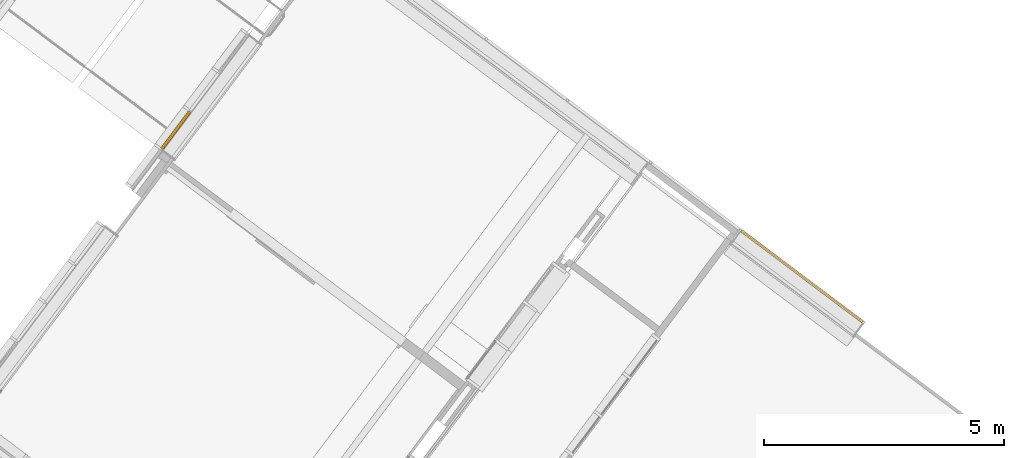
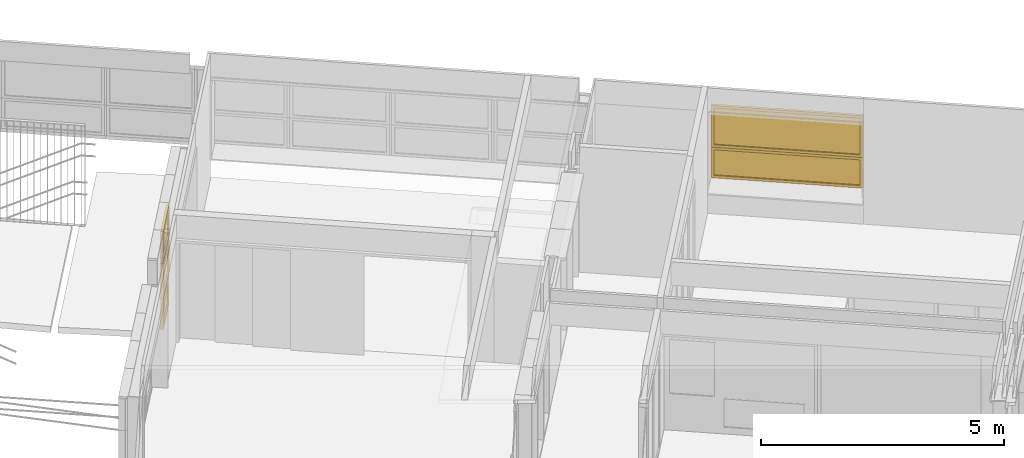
# One storey, part 231 of 243: 5 windows, 2 elements without a shape of their own.
"""IFC2X3 building model written with IfcOpenShell, lengths in metres."""

from ifc_helpers import new_model, entity, si_unit, converted_unit, derived_unit, direction, frame, origin, place, context, subcontext, project, spatial, faceted_brep, source, transform, mapped, material, material_list, type_object, type_shapes, element, aggregate, save


model = new_model("IFC2X3")

# Units and contexts
model_context = context("Model", 3, precision=1e-05, world=origin(), true_north=direction((6.123031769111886e-17, 1.0)))
body_context = subcontext(model_context, "Body", "Model", "MODEL_VIEW")
ifc_project = project(units=[si_unit("LENGTHUNIT", "METRE"), si_unit("AREAUNIT", "SQUARE_METRE"), si_unit("VOLUMEUNIT", "CUBIC_METRE"), converted_unit("PLANEANGLEUNIT", "DEGREE", entity("IfcRatioMeasure", 0.017453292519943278), si_unit("PLANEANGLEUNIT", "RADIAN"), dimensions=[0, 0, 0, 0, 0, 0, 0]), si_unit("MASSUNIT", "GRAM", prefix="KILO"), derived_unit("MASSDENSITYUNIT", [(si_unit("MASSUNIT", "GRAM", prefix="KILO"), 1), (si_unit("LENGTHUNIT", "METRE"), -3)]), derived_unit("IONCONCENTRATIONUNIT", [(si_unit("MASSUNIT", "GRAM", prefix="KILO"), 1), (si_unit("LENGTHUNIT", "METRE"), -3)]), derived_unit("MOMENTOFINERTIAUNIT", [(si_unit("LENGTHUNIT", "METRE"), 4)]), si_unit("TIMEUNIT", "SECOND"), si_unit("FREQUENCYUNIT", "HERTZ"), si_unit("THERMODYNAMICTEMPERATUREUNIT", "DEGREE_CELSIUS"), derived_unit("THERMALTRANSMITTANCEUNIT", [(si_unit("MASSUNIT", "GRAM", prefix="KILO"), 1), (si_unit("THERMODYNAMICTEMPERATUREUNIT", "KELVIN"), -1), (si_unit("TIMEUNIT", "SECOND"), -3)]), derived_unit("THERMALCONDUCTANCEUNIT", [(si_unit("MASSUNIT", "GRAM", prefix="KILO"), 1), (si_unit("THERMODYNAMICTEMPERATUREUNIT", "KELVIN"), -1), (si_unit("TIMEUNIT", "SECOND"), -3), (si_unit("LENGTHUNIT", "METRE"), 1)]), derived_unit("VOLUMETRICFLOWRATEUNIT", [(si_unit("LENGTHUNIT", "METRE"), 3), (si_unit("TIMEUNIT", "SECOND"), -1)]), derived_unit("MASSFLOWRATEUNIT", [(si_unit("MASSUNIT", "GRAM", prefix="KILO"), 1), (si_unit("TIMEUNIT", "SECOND"), -1)]), derived_unit("ROTATIONALFREQUENCYUNIT", [(si_unit("TIMEUNIT", "SECOND"), -1)]), si_unit("ELECTRICCURRENTUNIT", "AMPERE"), si_unit("ELECTRICVOLTAGEUNIT", "VOLT"), si_unit("POWERUNIT", "WATT"), si_unit("FORCEUNIT", "NEWTON", prefix="KILO"), si_unit("ILLUMINANCEUNIT", "LUX"), si_unit("LUMINOUSFLUXUNIT", "LUMEN"), si_unit("LUMINOUSINTENSITYUNIT", "CANDELA"), derived_unit("USERDEFINED", [(si_unit("MASSUNIT", "GRAM", prefix="KILO"), -1), (si_unit("LENGTHUNIT", "METRE"), -2), (si_unit("TIMEUNIT", "SECOND"), 3), (si_unit("LUMINOUSFLUXUNIT", "LUMEN"), 1)]), derived_unit("USERDEFINED", [(si_unit("MASSUNIT", "GRAM", prefix="KILO"), 1), (si_unit("TIMEUNIT", "SECOND"), -3), (si_unit("LENGTHUNIT", "METRE"), 3), (si_unit("ELECTRICCURRENTUNIT", "AMPERE"), -2)]), derived_unit("SOUNDPOWERUNIT", [(si_unit("MASSUNIT", "GRAM", prefix="KILO"), 1), (si_unit("TIMEUNIT", "SECOND"), -3), (si_unit("LENGTHUNIT", "METRE"), 2)]), derived_unit("SOUNDPRESSUREUNIT", [(si_unit("MASSUNIT", "GRAM", prefix="KILO"), 1), (si_unit("LENGTHUNIT", "METRE"), -1), (si_unit("TIMEUNIT", "SECOND"), -2)]), derived_unit("LINEARVELOCITYUNIT", [(si_unit("LENGTHUNIT", "METRE"), 1), (si_unit("TIMEUNIT", "SECOND"), -1)]), si_unit("PRESSUREUNIT", "PASCAL"), derived_unit("USERDEFINED", [(si_unit("MASSUNIT", "GRAM", prefix="KILO"), 1), (si_unit("LENGTHUNIT", "METRE"), -2), (si_unit("TIMEUNIT", "SECOND"), -2)]), derived_unit("LINEARFORCEUNIT", [(si_unit("MASSUNIT", "GRAM", prefix="KILO"), 1), (si_unit("TIMEUNIT", "SECOND"), -2)]), derived_unit("PLANARFORCEUNIT", [(si_unit("MASSUNIT", "GRAM", prefix="KILO"), 1), (si_unit("LENGTHUNIT", "METRE"), -1), (si_unit("TIMEUNIT", "SECOND"), -2)]), derived_unit("SPECIFICHEATCAPACITYUNIT", [(si_unit("THERMODYNAMICTEMPERATUREUNIT", "KELVIN"), -1), (si_unit("LENGTHUNIT", "METRE"), 2), (si_unit("TIMEUNIT", "SECOND"), -2)]), derived_unit("HEATINGVALUEUNIT", [(si_unit("LENGTHUNIT", "METRE"), 2), (si_unit("TIMEUNIT", "SECOND"), -2)]), derived_unit("VAPORPERMEABILITYUNIT", [(si_unit("LENGTHUNIT", "METRE"), -1), (si_unit("TIMEUNIT", "SECOND"), 1)]), derived_unit("DYNAMICVISCOSITYUNIT", [(si_unit("MASSUNIT", "GRAM", prefix="KILO"), 1), (si_unit("TIMEUNIT", "SECOND"), -1), (si_unit("LENGTHUNIT", "METRE"), -1)]), derived_unit("THERMALEXPANSIONCOEFFICIENTUNIT", [(si_unit("THERMODYNAMICTEMPERATUREUNIT", "KELVIN"), -1)]), derived_unit("MODULUSOFELASTICITYUNIT", [(si_unit("MASSUNIT", "GRAM", prefix="KILO"), 1), (si_unit("LENGTHUNIT", "METRE"), -1), (si_unit("TIMEUNIT", "SECOND"), -2)]), derived_unit("ISOTHERMALMOISTURECAPACITYUNIT", [(si_unit("LENGTHUNIT", "METRE"), 3), (si_unit("MASSUNIT", "GRAM", prefix="KILO"), -1)]), derived_unit("MOISTUREDIFFUSIVITYUNIT", [(si_unit("TIMEUNIT", "SECOND"), -1), (si_unit("LENGTHUNIT", "METRE"), 2)])], contexts=[model_context])

# Site, building, storey
site_placement = place(None, frame((0.0, 0.0, 235.0), z_axis=(0.0, 0.0, 1.0), x_axis=(-0.7996477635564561, 0.6004693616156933, 0.0)))
site = spatial("IfcSite", under=ifc_project, at=site_placement, Name="Default", CompositionType="ELEMENT")
building_placement = place(site_placement, origin())
building = spatial("IfcBuilding", under=site, at=building_placement, CompositionType="ELEMENT")
storey_placement = place(building_placement, origin())
storey = spatial("IfcBuildingStorey", under=building, at=storey_placement, Name="P0- Escola", CompositionType="ELEMENT", Elevation=0.0)

# Curtain wall, windows
curtain_wall_type_1 = type_object("IfcCurtainWallType", Name="Muro cortina:MC- EXT- MC2", PredefinedType="NOTDEFINED")
curtain_wall_1_placement = place(storey_placement, origin())
curtain_wall_1 = element("IfcCurtainWall", 1, at=curtain_wall_1_placement, inside=storey, type_object=curtain_wall_type_1, Name="Muro cortina:MC- EXT- MC2", ObjectType="Muro cortina:MC- EXT- MC2")
ifc_material_1 = material(Name="_Vidre")
ifc_material_2 = material(Name="_Alumini- T1- Perfil")
ifc_material_list = material_list([ifc_material_1, ifc_material_2])
window_style_1 = type_object("IfcWindowStyle", Name="MC- Alu- Conjunt vidre fix- 62x60 cm:MC- Alu- Conjunt vidre fix- 62x60 cm", ConstructionType="NOTDEFINED", OperationType="NOTDEFINED", ParameterTakesPrecedence=False, Sizeable=False, material=ifc_material_list)
shared_shape_1 = source(origin(), body_context, "Body", "Brep", [
    faceted_brep([(-0.43479523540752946, -0.007600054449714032, 0.048806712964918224), (0.4347952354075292, -0.007600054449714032, 0.048806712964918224), (0.4347952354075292, -0.03160022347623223, 0.048806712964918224), (-0.43479523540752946, -0.03160022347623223, 0.048806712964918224), (-0.43479523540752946, -0.007600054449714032, 0.7387000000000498), (0.4347952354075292, -0.007600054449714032, 0.7387000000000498), (0.4347952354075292, -0.03160022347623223, 0.7387000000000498), (-0.43479523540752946, -0.03160022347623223, 0.7387000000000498)], [[[0, 1, 2, 3]], [[4, 5, 1, 0]], [[5, 6, 2, 1]], [[6, 7, 3, 2]], [[7, 4, 0, 3]], [[4, 7, 6, 5]]]),
    faceted_brep([(-0.4836019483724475, -0.05999999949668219, 0.7877000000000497), (-0.4836019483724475, 0.0, 0.7877000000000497), (-0.4836019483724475, 0.0, 0.0), (-0.4836019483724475, -0.05999999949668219, 0.0), (-0.4207951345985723, 0.0, 0.7248931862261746), (-0.4207951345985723, 0.0, 0.06280681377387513), (0.4207951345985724, 0.0, 0.06280681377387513), (0.4207951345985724, 0.0, 0.7248931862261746), (0.4836019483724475, 0.0, 0.7877000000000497), (0.4836019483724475, 0.0, 0.0), (0.4836019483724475, -0.05999999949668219, 0.0), (0.4836019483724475, -0.05999999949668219, 0.7877000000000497), (0.42079798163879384, -0.05999999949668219, 0.724896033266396), (0.42079798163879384, -0.05999999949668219, 0.0628039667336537), (-0.42079798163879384, -0.05999999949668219, 0.0628039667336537), (-0.42079798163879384, -0.05999999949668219, 0.724896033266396), (-0.42079798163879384, -0.03160022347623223, 0.724896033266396), (-0.4207979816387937, -0.03160022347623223, 0.0628039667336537), (0.4207979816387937, -0.03160022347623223, 0.06280396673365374), (0.42079798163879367, -0.03160022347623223, 0.7248960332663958), (0.43479523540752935, -0.03160022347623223, 0.7388932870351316), (0.43479523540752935, -0.03160022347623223, 0.048806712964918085), (-0.43479523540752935, -0.03160022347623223, 0.04880671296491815), (-0.43479523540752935, -0.03160022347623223, 0.7388932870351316), (-0.43479523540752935, -0.007600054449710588, 0.7388932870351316), (-0.43479523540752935, -0.007600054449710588, 0.04880671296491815), (0.43479523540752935, -0.007600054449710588, 0.048806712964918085), (0.43479523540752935, -0.007600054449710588, 0.7388932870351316), (0.4207951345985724, -0.007600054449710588, 0.7248931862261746), (0.4207951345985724, -0.007600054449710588, 0.06280681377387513), (-0.4207951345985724, -0.007600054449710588, 0.06280681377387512), (-0.4207951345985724, -0.007600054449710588, 0.7248931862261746)], [[[0, 1, 2, 3]], [[4, 5, 6, 7], [8, 9, 2, 1]], [[3, 2, 9, 10]], [[0, 3, 10, 11], [12, 13, 14, 15]], [[16, 15, 14, 17]], [[17, 14, 13, 18]], [[16, 17, 18, 19], [20, 21, 22, 23]], [[24, 23, 22, 25]], [[25, 22, 21, 26]], [[24, 25, 26, 27], [28, 29, 30, 31]], [[4, 31, 30, 5]], [[5, 30, 29, 6]], [[10, 9, 8, 11]], [[18, 13, 12, 19]], [[26, 21, 20, 27]], [[6, 29, 28, 7]], [[11, 8, 1, 0]], [[19, 12, 15, 16]], [[27, 20, 23, 24]], [[7, 28, 31, 4]]], outer=[[True], [False, True], [True], [True, False], [True], [True], [False, True], [True], [True], [True, False], [True], [True], [True], [True], [True], [True], [True], [True], [True], [True]]),
])
type_shapes(window_style_1, [shared_shape_1])
window_1_placement = place(curtain_wall_1_placement, frame((23.945147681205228, -36.91658981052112, 0.03229999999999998), z_axis=(0.0, 0.0, 1.0), x_axis=(0.0, -1.0, 0.0)))
window_1 = element("IfcWindow", 2, at=window_1_placement, type_object=window_style_1, material=ifc_material_list, Name="MC- Alu- Conjunt vidre fix- 62x60 cm:MC- Alu- Conjunt vidre fix- 62x60 cm", ObjectType="MC- Alu- Conjunt vidre fix- 62x60 cm:MC- Alu- Conjunt vidre fix- 62x60 cm", OverallHeight=0.7877000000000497, OverallWidth=0.967203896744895, context=body_context, shape_type="MappedRepresentation", body=[
    mapped(shared_shape_1, transform((0.0, 0.0, 0.0), scale=1.0)),
])
window_style_2 = type_object("IfcWindowStyle", Name="MC- Alu- Conjunt finestra basculant- 68x68 cm:MC- Alu- Conjunt finestra basculant- 68x68 cm", ConstructionType="NOTDEFINED", OperationType="NOTDEFINED", ParameterTakesPrecedence=False, Sizeable=False, material=ifc_material_list)
shared_shape_2 = source(origin(), body_context, "Body", "Brep", [
    faceted_brep([(-0.4315136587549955, -0.03559830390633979, 0.051999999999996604), (-0.4315136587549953, -0.011598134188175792, 0.051999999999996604), (0.4315136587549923, -0.01159813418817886, 0.051999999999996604), (0.4315136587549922, -0.03559830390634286, 0.051999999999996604), (-0.4315136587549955, -0.03559830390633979, 0.8228027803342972), (-0.4315136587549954, -0.011598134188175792, 0.8228027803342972), (0.4315136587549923, -0.01159813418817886, 0.8228027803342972), (0.4315136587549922, -0.03559830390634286, 0.8228027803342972)], [[[0, 1, 2, 3]], [[4, 5, 1, 0]], [[5, 6, 2, 1]], [[6, 7, 3, 2]], [[7, 4, 0, 3]], [[4, 7, 6, 5]]]),
    faceted_brep([(0.41581283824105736, -0.009998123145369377, 0.8071019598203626), (0.41581283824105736, -0.007998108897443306, 0.8071019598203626), (0.41581283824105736, -0.007998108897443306, 0.06789804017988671), (0.41581283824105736, -0.009998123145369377, 0.06789804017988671), (0.4447108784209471, -0.007998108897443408, 0.8360000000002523), (0.4447108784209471, -0.007998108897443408, 0.03899999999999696), (-0.4447108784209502, -0.00799810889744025, 0.03899999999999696), (-0.4447108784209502, -0.00799810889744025, 0.8360000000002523), (-0.41581283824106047, -0.007998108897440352, 0.8071019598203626), (-0.41581283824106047, -0.007998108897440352, 0.06789804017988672), (-0.41581283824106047, -0.009998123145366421, 0.06789804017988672), (-0.41581283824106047, -0.009998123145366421, 0.8071019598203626), (-0.4315136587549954, -0.009998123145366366, 0.8228027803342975), (-0.4315136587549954, -0.009998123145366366, 0.05219721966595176), (0.4315136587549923, -0.009998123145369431, 0.052197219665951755), (0.4315136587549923, -0.009998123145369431, 0.8228027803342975), (0.43151365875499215, -0.04079986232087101, 0.8228027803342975), (0.43151365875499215, -0.04079986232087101, 0.052197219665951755), (-0.43151365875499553, -0.04079986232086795, 0.05219721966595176), (-0.43151365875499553, -0.04079986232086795, 0.8228027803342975), (-0.4158128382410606, -0.040799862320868, 0.8071019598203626), (-0.4158128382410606, -0.04079986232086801, 0.06789804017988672), (0.4158128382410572, -0.04079986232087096, 0.06789804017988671), (0.4158128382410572, -0.040799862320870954, 0.8071019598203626), (0.4158128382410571, -0.06800005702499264, 0.8071019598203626), (0.41581283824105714, -0.06800005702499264, 0.06789804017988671), (-0.41581283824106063, -0.0680000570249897, 0.06789804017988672), (-0.41581283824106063, -0.0680000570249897, 0.8071019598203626), (-0.46221484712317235, -0.06800005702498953, 0.8535039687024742), (-0.46221484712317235, -0.06800005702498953, 0.021496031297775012), (0.46221484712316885, -0.06800005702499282, 0.021496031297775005), (0.46221484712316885, -0.06800005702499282, 0.8535039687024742), (0.46221484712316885, -0.0645000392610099, 0.8535039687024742), (0.46221484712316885, -0.0645000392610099, 0.021496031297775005), (-0.46221484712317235, -0.06450003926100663, 0.021496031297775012), (-0.46221484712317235, -0.06450003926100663, 0.8535039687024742), (-0.4447108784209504, -0.06450003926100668, 0.8360000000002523), (-0.4447108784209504, -0.06450003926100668, 0.03899999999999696), (0.44471087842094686, -0.06450003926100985, 0.038999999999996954), (0.44471087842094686, -0.06450003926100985, 0.8360000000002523)], [[[0, 1, 2, 3]], [[4, 5, 6, 7], [8, 9, 2, 1]], [[3, 2, 9, 10]], [[0, 3, 10, 11], [12, 13, 14, 15]], [[16, 15, 14, 17]], [[17, 14, 13, 18]], [[16, 17, 18, 19], [20, 21, 22, 23]], [[24, 23, 22, 25]], [[25, 22, 21, 26]], [[24, 25, 26, 27], [28, 29, 30, 31]], [[32, 31, 30, 33]], [[33, 30, 29, 34]], [[32, 33, 34, 35], [36, 37, 38, 39]], [[4, 39, 38, 5]], [[5, 38, 37, 6]], [[10, 9, 8, 11]], [[18, 13, 12, 19]], [[26, 21, 20, 27]], [[34, 29, 28, 35]], [[6, 37, 36, 7]], [[11, 8, 1, 0]], [[19, 12, 15, 16]], [[27, 20, 23, 24]], [[35, 28, 31, 32]], [[7, 36, 39, 4]]], outer=[[True], [True, False], [True], [False, True], [True], [True], [True, False], [True], [True], [False, True], [True], [True], [True, False], [True], [True], [True], [True], [True], [True], [True], [True], [True], [True], [True], [True]]),
    faceted_brep([(-0.4207951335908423, 0.0, 0.8121931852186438), (-0.4207951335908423, -0.0040000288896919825, 0.8121931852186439), (-0.4207951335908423, -0.0040000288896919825, 0.06280681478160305), (-0.4207951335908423, 0.0, 0.06280681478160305), (-0.45620175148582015, -0.0040000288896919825, 0.8475998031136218), (-0.45620175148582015, -0.0040000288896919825, 0.027400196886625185), (0.45620175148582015, -0.0040000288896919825, 0.027400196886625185), (0.45620175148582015, -0.0040000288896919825, 0.8475998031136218), (0.4207951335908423, -0.0040000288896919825, 0.8121931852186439), (0.4207951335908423, -0.0040000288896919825, 0.06280681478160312), (0.4207951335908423, 0.0, 0.06280681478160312), (0.4207951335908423, 0.0, 0.8121931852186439), (0.4836019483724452, 0.0, 0.8750000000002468), (0.4836019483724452, 0.0, 0.0), (-0.4836019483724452, 0.0, 0.0), (-0.4836019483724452, 0.0, 0.8750000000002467), (-0.4836019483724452, -0.05999999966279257, 0.8750000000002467), (-0.4836019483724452, -0.05999999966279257, 0.0), (0.4836019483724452, -0.05999999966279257, 0.0), (0.4836019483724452, -0.05999999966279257, 0.8750000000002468), (0.45620175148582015, -0.05999999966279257, 0.8475998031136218), (0.45620175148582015, -0.05999999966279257, 0.027400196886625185), (-0.45620175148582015, -0.05999999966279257, 0.02740019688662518), (-0.45620175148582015, -0.05999999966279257, 0.8475998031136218)], [[[0, 1, 2, 3]], [[4, 5, 6, 7], [8, 9, 2, 1]], [[3, 2, 9, 10]], [[0, 3, 10, 11], [12, 13, 14, 15]], [[16, 15, 14, 17]], [[17, 14, 13, 18]], [[16, 17, 18, 19], [20, 21, 22, 23]], [[4, 23, 22, 5]], [[5, 22, 21, 6]], [[10, 9, 8, 11]], [[18, 13, 12, 19]], [[6, 21, 20, 7]], [[11, 8, 1, 0]], [[19, 12, 15, 16]], [[7, 20, 23, 4]]], outer=[[True], [True, False], [True], [False, True], [True], [True], [True, False], [True], [True], [True], [True], [True], [True], [True], [True]]),
])
type_shapes(window_style_2, [shared_shape_2])
window_2_placement = place(curtain_wall_1_placement, frame((23.945147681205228, -36.91658981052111, 0.8200000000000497), z_axis=(0.0, 0.0, 1.0), x_axis=(0.0, -1.0, 0.0)))
window_2 = element("IfcWindow", 3, at=window_2_placement, type_object=window_style_2, material=ifc_material_list, Name="MC- Alu- Conjunt finestra basculant- 68x68 cm:MC- Alu- Conjunt finestra basculant- 68x68 cm", ObjectType="MC- Alu- Conjunt finestra basculant- 68x68 cm:MC- Alu- Conjunt finestra basculant- 68x68 cm", OverallHeight=0.8750000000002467, OverallWidth=0.9672038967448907, context=body_context, shape_type="MappedRepresentation", body=[
    mapped(shared_shape_2, transform((0.0, 0.0, 0.0), scale=1.0)),
])
window_style_3 = type_object("IfcWindowStyle", Name="MC- Alu- Conjunt finestra basculant- 68x68 cm:MC- Alu- Conjunt finestra basculant- 68x68 cm", ConstructionType="NOTDEFINED", OperationType="NOTDEFINED", ParameterTakesPrecedence=False, Sizeable=False, material=ifc_material_list)
shared_shape_3 = source(origin(), body_context, "Body", "Brep", [
    faceted_brep([(-0.4315136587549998, -0.03559830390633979, 0.051999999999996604), (-0.4315136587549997, -0.011598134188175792, 0.051999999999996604), (0.43151365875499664, -0.01159813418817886, 0.051999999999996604), (0.43151365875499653, -0.03559830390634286, 0.051999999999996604), (-0.4315136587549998, -0.03559830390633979, 0.7565527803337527), (-0.43151365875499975, -0.011598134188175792, 0.7565527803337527), (0.43151365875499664, -0.01159813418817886, 0.7565527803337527), (0.43151365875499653, -0.03559830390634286, 0.7565527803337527)], [[[0, 1, 2, 3]], [[4, 5, 1, 0]], [[5, 6, 2, 1]], [[6, 7, 3, 2]], [[7, 4, 0, 3]], [[4, 7, 6, 5]]]),
    faceted_brep([(0.4158128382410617, -0.009998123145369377, 0.740851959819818), (0.4158128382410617, -0.007998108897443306, 0.740851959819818), (0.4158128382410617, -0.007998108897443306, 0.06789804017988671), (0.4158128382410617, -0.009998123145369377, 0.06789804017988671), (0.4447108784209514, -0.007998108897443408, 0.7697499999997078), (0.4447108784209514, -0.007998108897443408, 0.03899999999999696), (-0.4447108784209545, -0.00799810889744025, 0.03899999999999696), (-0.4447108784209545, -0.00799810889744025, 0.7697499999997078), (-0.4158128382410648, -0.007998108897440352, 0.740851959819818), (-0.4158128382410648, -0.007998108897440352, 0.06789804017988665), (-0.4158128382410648, -0.009998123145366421, 0.06789804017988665), (-0.4158128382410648, -0.009998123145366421, 0.740851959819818), (-0.43151365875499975, -0.009998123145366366, 0.756552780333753), (-0.43151365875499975, -0.009998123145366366, 0.05219721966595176), (0.43151365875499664, -0.009998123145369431, 0.052197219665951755), (0.43151365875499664, -0.009998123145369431, 0.756552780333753), (0.4315136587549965, -0.04079986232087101, 0.756552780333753), (0.4315136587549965, -0.04079986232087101, 0.052197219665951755), (-0.43151365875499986, -0.04079986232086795, 0.05219721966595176), (-0.43151365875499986, -0.04079986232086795, 0.756552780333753), (-0.4158128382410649, -0.040799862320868, 0.740851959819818), (-0.4158128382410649, -0.04079986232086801, 0.06789804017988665), (0.4158128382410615, -0.04079986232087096, 0.06789804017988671), (0.4158128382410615, -0.040799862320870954, 0.740851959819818), (0.4158128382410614, -0.06800005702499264, 0.740851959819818), (0.41581283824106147, -0.06800005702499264, 0.06789804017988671), (-0.41581283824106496, -0.0680000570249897, 0.06789804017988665), (-0.41581283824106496, -0.0680000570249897, 0.740851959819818), (-0.4622148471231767, -0.06800005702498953, 0.7872539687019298), (-0.4622148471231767, -0.06800005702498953, 0.021496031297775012), (0.4622148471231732, -0.06800005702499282, 0.021496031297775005), (0.4622148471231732, -0.06800005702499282, 0.7872539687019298), (0.4622148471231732, -0.0645000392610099, 0.7872539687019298), (0.4622148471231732, -0.0645000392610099, 0.021496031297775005), (-0.4622148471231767, -0.06450003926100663, 0.021496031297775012), (-0.4622148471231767, -0.06450003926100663, 0.7872539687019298), (-0.44471087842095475, -0.06450003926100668, 0.7697499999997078), (-0.44471087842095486, -0.06450003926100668, 0.0389999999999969), (0.4447108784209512, -0.06450003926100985, 0.038999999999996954), (0.44471087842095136, -0.06450003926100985, 0.769749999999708)], [[[0, 1, 2, 3]], [[4, 5, 6, 7], [8, 9, 2, 1]], [[3, 2, 9, 10]], [[0, 3, 10, 11], [12, 13, 14, 15]], [[16, 15, 14, 17]], [[17, 14, 13, 18]], [[16, 17, 18, 19], [20, 21, 22, 23]], [[24, 23, 22, 25]], [[25, 22, 21, 26]], [[24, 25, 26, 27], [28, 29, 30, 31]], [[32, 31, 30, 33]], [[33, 30, 29, 34]], [[32, 33, 34, 35], [36, 37, 38, 39]], [[4, 39, 38, 5]], [[5, 38, 37, 6]], [[10, 9, 8, 11]], [[18, 13, 12, 19]], [[26, 21, 20, 27]], [[34, 29, 28, 35]], [[6, 37, 36, 7]], [[11, 8, 1, 0]], [[19, 12, 15, 16]], [[27, 20, 23, 24]], [[35, 28, 31, 32]], [[7, 36, 39, 4]]], outer=[[True], [True, False], [True], [False, True], [True], [True], [True, False], [True], [True], [False, True], [True], [True], [True, False], [True], [True], [True], [True], [True], [True], [True], [True], [True], [True], [True], [True]]),
    faceted_brep([(-0.42079513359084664, 0.0, 0.7459431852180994), (-0.42079513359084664, -0.0040000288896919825, 0.7459431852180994), (-0.42079513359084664, -0.0040000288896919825, 0.06280681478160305), (-0.42079513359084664, 0.0, 0.06280681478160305), (-0.4562017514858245, -0.0040000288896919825, 0.7813498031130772), (-0.4562017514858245, -0.0040000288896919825, 0.027400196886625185), (0.4562017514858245, -0.0040000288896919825, 0.027400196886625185), (0.4562017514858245, -0.0040000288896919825, 0.7813498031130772), (0.42079513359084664, -0.0040000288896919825, 0.7459431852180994), (0.42079513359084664, -0.0040000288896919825, 0.06280681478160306), (0.42079513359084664, 0.0, 0.06280681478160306), (0.42079513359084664, 0.0, 0.7459431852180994), (0.48360194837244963, 0.0, 0.8087499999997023), (0.4836019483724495, 0.0, 0.0), (-0.48360194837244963, 0.0, 0.0), (-0.4836019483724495, 0.0, 0.8087499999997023), (-0.4836019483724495, -0.05999999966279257, 0.8087499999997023), (-0.4836019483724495, -0.05999999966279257, 0.0), (0.4836019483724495, -0.05999999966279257, 0.0), (0.4836019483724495, -0.05999999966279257, 0.8087499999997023), (0.4562017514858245, -0.05999999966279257, 0.7813498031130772), (0.4562017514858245, -0.05999999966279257, 0.027400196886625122), (-0.4562017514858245, -0.05999999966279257, 0.02740019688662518), (-0.4562017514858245, -0.05999999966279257, 0.7813498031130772)], [[[0, 1, 2, 3]], [[4, 5, 6, 7], [8, 9, 2, 1]], [[3, 2, 9, 10]], [[0, 3, 10, 11], [12, 13, 14, 15]], [[16, 15, 14, 17]], [[17, 14, 13, 18]], [[16, 17, 18, 19], [20, 21, 22, 23]], [[4, 23, 22, 5]], [[5, 22, 21, 6]], [[10, 9, 8, 11]], [[18, 13, 12, 19]], [[6, 21, 20, 7]], [[11, 8, 1, 0]], [[19, 12, 15, 16]], [[7, 20, 23, 4]]], outer=[[True], [True, False], [True], [False, True], [True], [True], [True, False], [True], [True], [True], [True], [True], [True], [True], [True]]),
])
type_shapes(window_style_3, [shared_shape_3])
window_3_placement = place(curtain_wall_1_placement, frame((23.945147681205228, -36.916589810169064, 1.6950000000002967), z_axis=(0.0, 0.0, 1.0), x_axis=(0.0, -1.0, 0.0)))
window_3 = element("IfcWindow", 4, at=window_3_placement, type_object=window_style_3, material=ifc_material_list, Name="MC- Alu- Conjunt finestra basculant- 68x68 cm:MC- Alu- Conjunt finestra basculant- 68x68 cm", ObjectType="MC- Alu- Conjunt finestra basculant- 68x68 cm:MC- Alu- Conjunt finestra basculant- 68x68 cm", OverallHeight=0.8087499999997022, OverallWidth=0.9672038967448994, context=body_context, shape_type="MappedRepresentation", body=[
    mapped(shared_shape_3, transform((0.0, 0.0, 0.0), scale=1.0)),
])
aggregate(curtain_wall_1, [window_1, window_2, window_3])

curtain_wall_type_2 = type_object("IfcCurtainWallType", Name="Muro cortina:MC- EXT- MC6", PredefinedType="NOTDEFINED")
curtain_wall_2_placement = place(storey_placement, origin())
curtain_wall_2 = element("IfcCurtainWall", 5, at=curtain_wall_2_placement, inside=storey, type_object=curtain_wall_type_2, Name="Muro cortina:MC- EXT- MC6", ObjectType="Muro cortina:MC- EXT- MC6")
window_style_4 = type_object("IfcWindowStyle", Name="MC- Alu- Conjunt vidre fix- 62x60 cm:MC- Alu- Conjunt vidre fix- 62x60 cm", ConstructionType="NOTDEFINED", OperationType="NOTDEFINED", ParameterTakesPrecedence=False, Sizeable=False, material=ifc_material_list)
shared_shape_4 = source(origin(), body_context, "Body", "Brep", [
    faceted_brep([(-1.5268341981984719, -0.007600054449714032, 0.048806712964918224), (1.5268341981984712, -0.007600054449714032, 0.048806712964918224), (1.5268341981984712, -0.03160022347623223, 0.048806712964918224), (-1.5268341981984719, -0.03160022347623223, 0.048806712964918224), (-1.5268341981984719, -0.007600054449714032, 0.7210000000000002), (1.5268341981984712, -0.007600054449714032, 0.7210000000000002), (1.5268341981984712, -0.03160022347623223, 0.7210000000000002), (-1.5268341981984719, -0.03160022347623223, 0.7210000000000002)], [[[0, 1, 2, 3]], [[4, 5, 1, 0]], [[5, 6, 2, 1]], [[6, 7, 3, 2]], [[7, 4, 0, 3]], [[4, 7, 6, 5]]]),
    faceted_brep([(-1.5756409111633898, -0.05999999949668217, 0.7700000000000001), (-1.5756409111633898, 0.0, 0.7700000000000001), (-1.5756409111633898, 0.0, 0.0), (-1.5756409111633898, -0.05999999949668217, 0.0), (-1.5128340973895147, 0.0, 0.707193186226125), (-1.5128340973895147, 0.0, 0.06280681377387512), (1.5128340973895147, 0.0, 0.06280681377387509), (1.5128340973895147, 0.0, 0.707193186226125), (1.5756409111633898, 0.0, 0.7700000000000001), (1.5756409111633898, 0.0, 0.0), (1.5756409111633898, -0.05999999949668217, 0.0), (1.5756409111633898, -0.05999999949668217, 0.7700000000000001), (1.5128369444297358, -0.05999999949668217, 0.7071960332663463), (1.5128369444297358, -0.05999999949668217, 0.06280396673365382), (-1.5128369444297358, -0.05999999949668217, 0.06280396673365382), (-1.5128369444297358, -0.05999999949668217, 0.7071960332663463), (-1.5128369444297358, -0.03160022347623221, 0.7071960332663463), (-1.5128369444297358, -0.03160022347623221, 0.06280396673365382), (1.5128369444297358, -0.03160022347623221, 0.06280396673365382), (1.5128369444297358, -0.03160022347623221, 0.7071960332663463), (1.5268341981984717, -0.03160022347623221, 0.721193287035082), (1.5268341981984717, -0.03160022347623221, 0.048806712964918), (-1.5268341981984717, -0.03160022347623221, 0.04880671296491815), (-1.5268341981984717, -0.03160022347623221, 0.7211932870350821), (-1.5268341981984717, -0.007600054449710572, 0.7211932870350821), (-1.5268341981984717, -0.007600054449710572, 0.04880671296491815), (1.5268341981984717, -0.007600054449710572, 0.048806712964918), (1.5268341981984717, -0.007600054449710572, 0.721193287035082), (1.5128340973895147, -0.007600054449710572, 0.707193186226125), (1.5128340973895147, -0.007600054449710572, 0.06280681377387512), (-1.5128340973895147, -0.007600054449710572, 0.06280681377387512), (-1.5128340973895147, -0.007600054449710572, 0.707193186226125)], [[[0, 1, 2, 3]], [[4, 5, 6, 7], [8, 9, 2, 1]], [[3, 2, 9, 10]], [[0, 3, 10, 11], [12, 13, 14, 15]], [[16, 15, 14, 17]], [[17, 14, 13, 18]], [[16, 17, 18, 19], [20, 21, 22, 23]], [[24, 23, 22, 25]], [[25, 22, 21, 26]], [[24, 25, 26, 27], [28, 29, 30, 31]], [[4, 31, 30, 5]], [[5, 30, 29, 6]], [[10, 9, 8, 11]], [[18, 13, 12, 19]], [[26, 21, 20, 27]], [[6, 29, 28, 7]], [[11, 8, 1, 0]], [[19, 12, 15, 16]], [[27, 20, 23, 24]], [[7, 28, 31, 4]]], outer=[[True], [False, True], [True], [True, False], [True], [True], [False, True], [True], [True], [True, False], [True], [True], [True], [True], [True], [True], [True], [True], [True], [True]]),
])
type_shapes(window_style_4, [shared_shape_4])
window_4_placement = place(curtain_wall_2_placement, frame((11.670788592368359, -42.340191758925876, 0.685), z_axis=(0.0, 0.0, 1.0), x_axis=(-1.0, 0.0, 0.0)))
window_4 = element("IfcWindow", 6, at=window_4_placement, type_object=window_style_4, material=ifc_material_list, Name="MC- Alu- Conjunt vidre fix- 62x60 cm:MC- Alu- Conjunt vidre fix- 62x60 cm", ObjectType="MC- Alu- Conjunt vidre fix- 62x60 cm:MC- Alu- Conjunt vidre fix- 62x60 cm", OverallHeight=0.7700000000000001, OverallWidth=3.1512818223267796, context=body_context, shape_type="MappedRepresentation", body=[
    mapped(shared_shape_4, transform((0.0, 0.0, 0.0), scale=1.0)),
])
window_style_5 = type_object("IfcWindowStyle", Name="MC- Alu- Conjunt vidre fix- 62x60 cm:MC- Alu- Conjunt vidre fix- 62x60 cm", ConstructionType="NOTDEFINED", OperationType="NOTDEFINED", ParameterTakesPrecedence=False, Sizeable=False, material=ifc_material_list)
shared_shape_5 = source(origin(), body_context, "Body", "Brep", [
    faceted_brep([(1.526834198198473, -0.007600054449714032, 0.048806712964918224), (1.526834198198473, -0.03160022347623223, 0.048806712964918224), (-1.5268341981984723, -0.03160022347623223, 0.048806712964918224), (-1.5268341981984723, -0.007600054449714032, 0.048806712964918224), (1.526834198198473, -0.007600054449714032, 0.9985000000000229), (-1.5268341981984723, -0.007600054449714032, 0.9985000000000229), (-1.5268341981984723, -0.03160022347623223, 0.9985000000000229), (1.526834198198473, -0.03160022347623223, 0.9985000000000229)], [[[0, 1, 2, 3]], [[4, 0, 3, 5]], [[5, 3, 2, 6]], [[6, 2, 1, 7]], [[7, 1, 0, 4]], [[4, 5, 6, 7]]]),
    faceted_brep([(1.575640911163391, -0.05999999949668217, 1.0475000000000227), (1.575640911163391, -0.05999999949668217, 0.0), (1.575640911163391, 0.0, 0.0), (1.575640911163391, 0.0, 1.0475000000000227), (-1.575640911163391, 0.0, 1.0475000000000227), (-1.575640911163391, 0.0, 0.0), (1.5128340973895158, 0.0, 0.9846931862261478), (-1.5128340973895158, 0.0, 0.9846931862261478), (-1.5128340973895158, 0.0, 0.06280681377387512), (1.5128340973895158, 0.0, 0.06280681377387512), (-1.575640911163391, -0.05999999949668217, 0.0), (-1.575640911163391, -0.05999999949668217, 1.0475000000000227), (-1.512836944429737, -0.05999999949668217, 0.984696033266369), (1.512836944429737, -0.05999999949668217, 0.984696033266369), (1.512836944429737, -0.05999999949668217, 0.06280396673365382), (-1.512836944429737, -0.05999999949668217, 0.06280396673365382), (1.512836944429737, -0.03160022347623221, 0.984696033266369), (1.512836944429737, -0.03160022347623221, 0.06280396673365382), (-1.512836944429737, -0.03160022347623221, 0.06280396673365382), (-1.512836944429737, -0.03160022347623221, 0.984696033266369), (-1.5268341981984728, -0.03160022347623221, 0.9986932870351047), (1.5268341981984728, -0.03160022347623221, 0.9986932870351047), (1.5268341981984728, -0.03160022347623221, 0.04880671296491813), (-1.5268341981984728, -0.03160022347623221, 0.04880671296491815), (1.5268341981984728, -0.007600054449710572, 0.9986932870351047), (1.5268341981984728, -0.007600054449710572, 0.04880671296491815), (-1.5268341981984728, -0.007600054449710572, 0.048806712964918), (-1.5268341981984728, -0.007600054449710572, 0.9986932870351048), (-1.5128340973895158, -0.007600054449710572, 0.9846931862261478), (1.5128340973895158, -0.007600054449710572, 0.9846931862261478), (1.5128340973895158, -0.007600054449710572, 0.06280681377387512), (-1.5128340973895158, -0.007600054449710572, 0.06280681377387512)], [[[0, 1, 2, 3]], [[4, 3, 2, 5], [6, 7, 8, 9]], [[1, 10, 5, 2]], [[0, 11, 10, 1], [12, 13, 14, 15]], [[16, 17, 14, 13]], [[17, 18, 15, 14]], [[16, 19, 18, 17], [20, 21, 22, 23]], [[24, 25, 22, 21]], [[25, 26, 23, 22]], [[24, 27, 26, 25], [28, 29, 30, 31]], [[6, 9, 30, 29]], [[9, 8, 31, 30]], [[10, 11, 4, 5]], [[18, 19, 12, 15]], [[26, 27, 20, 23]], [[8, 7, 28, 31]], [[11, 0, 3, 4]], [[19, 16, 13, 12]], [[27, 24, 21, 20]], [[7, 6, 29, 28]]], outer=[[True], [True, False], [True], [True, False], [True], [True], [False, True], [True], [True], [True, False], [True], [True], [True], [True], [True], [True], [True], [True], [True], [True]]),
])
type_shapes(window_style_5, [shared_shape_5])
window_5_placement = place(curtain_wall_2_placement, frame((11.670788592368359, -42.340191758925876, 1.455), z_axis=(0.0, 0.0, 1.0), x_axis=(-1.0, 0.0, 0.0)))
window_5 = element("IfcWindow", 7, at=window_5_placement, type_object=window_style_5, material=ifc_material_list, Name="MC- Alu- Conjunt vidre fix- 62x60 cm:MC- Alu- Conjunt vidre fix- 62x60 cm", ObjectType="MC- Alu- Conjunt vidre fix- 62x60 cm:MC- Alu- Conjunt vidre fix- 62x60 cm", OverallHeight=1.0475000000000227, OverallWidth=3.151281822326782, context=body_context, shape_type="MappedRepresentation", body=[
    mapped(shared_shape_5, transform((0.0, 0.0, 0.0), scale=1.0)),
])
aggregate(curtain_wall_2, [window_4, window_5])

save(model, "model.ifc")
